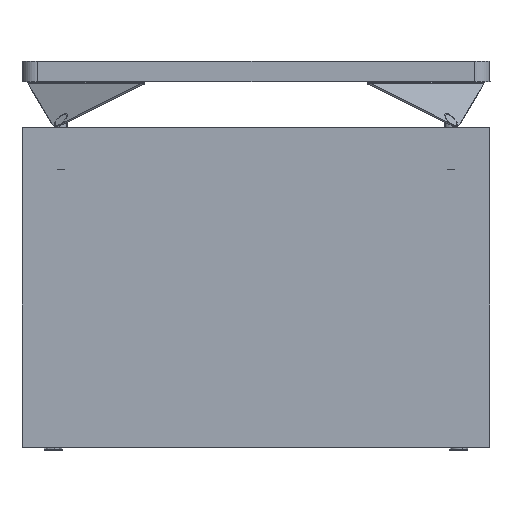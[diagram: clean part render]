
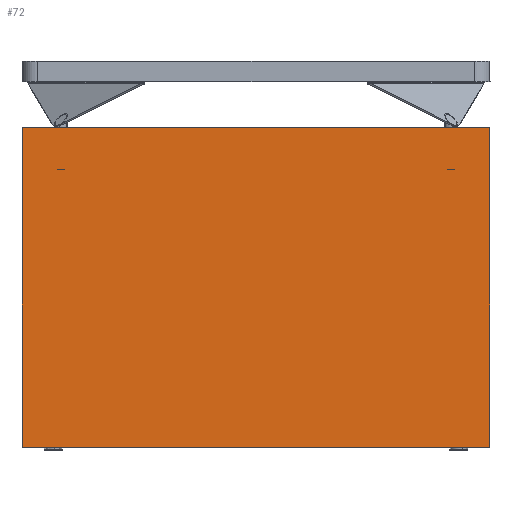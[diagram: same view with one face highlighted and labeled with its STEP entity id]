
A CAD part, left-side view. The second image highlights one B-rep face of the part: STEP entity #72.
In plain terms, the highlighted planar face has unit normal (-1, 0, 0).
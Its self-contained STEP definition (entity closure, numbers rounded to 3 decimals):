
#9=CARTESIAN_POINT('',(-20.0,0.,7.));
#10=VERTEX_POINT('',#9);
#17=CARTESIAN_POINT('',(-20.,0.,622.0));
#18=VERTEX_POINT('',#17);
#19=CARTESIAN_POINT('',(-20.0,0.,7.));
#20=DIRECTION('',(0.0,0.0,1.0));
#21=VECTOR('',#20,615.0);
#22=LINE('',#19,#21);
#23=EDGE_CURVE('',#10,#18,#22,.T.);
#42=CARTESIAN_POINT('',(-20.0,0.,7.));
#43=DIRECTION('',(-1.0,0.0,0.0));
#44=DIRECTION('',(0.0,-1.0,0.0));
#45=AXIS2_PLACEMENT_3D('',#42,#43,#44);
#46=PLANE('',#45);
#47=CARTESIAN_POINT('',(-20.,-900.0,7.));
#48=VERTEX_POINT('',#47);
#49=CARTESIAN_POINT('',(-20.0,0.0,7.));
#50=DIRECTION('',(0.0,-1.0,0.0));
#51=VECTOR('',#50,900.0);
#52=LINE('',#49,#51);
#53=EDGE_CURVE('',#10,#48,#52,.T.);
#54=ORIENTED_EDGE('',*,*,#53,.T.);
#55=CARTESIAN_POINT('',(-20.,-900.0,622.0));
#56=VERTEX_POINT('',#55);
#57=CARTESIAN_POINT('',(-20.,-900.0,7.));
#58=DIRECTION('',(0.0,0.0,1.0));
#59=VECTOR('',#58,615.0);
#60=LINE('',#57,#59);
#61=EDGE_CURVE('',#48,#56,#60,.T.);
#62=ORIENTED_EDGE('',*,*,#61,.T.);
#63=CARTESIAN_POINT('',(-20.,0.0,622.0));
#64=DIRECTION('',(0.0,-1.0,0.0));
#65=VECTOR('',#64,900.0);
#66=LINE('',#63,#65);
#67=EDGE_CURVE('',#18,#56,#66,.T.);
#68=ORIENTED_EDGE('',*,*,#67,.F.);
#69=ORIENTED_EDGE('',*,*,#23,.F.);
#70=EDGE_LOOP('',(#54,#62,#68,#69));
#71=FACE_OUTER_BOUND('',#70,.T.);
#72=ADVANCED_FACE('',(#71),#46,.T.);
